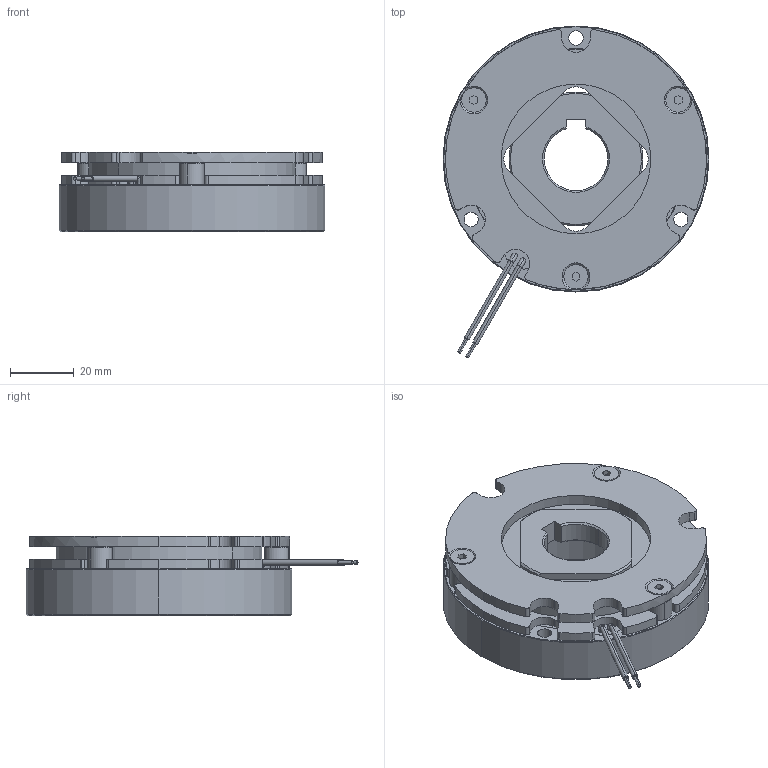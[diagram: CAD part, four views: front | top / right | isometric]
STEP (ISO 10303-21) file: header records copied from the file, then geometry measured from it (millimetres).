
FILE_DESCRIPTION (( 'STEP AP214' ), '1' );
FILE_NAME ('ÌÞÚ°·_BXR-06-10_STEP—p.STEP', '2017-06-30T08:34:42', ( 'MIKI' ), ( '' ), 'SwSTEP 2.0', 'SolidWorks 2012', '' );
FILE_SCHEMA (( 'AUTOMOTIVE_DESIGN' ));
Length unit declared in the file: millimetre
Products named in the file (1): ÌÞÚ°·_BXR-06-10_STEP—p
Bounding box: 83.5 x 104.24 x 25 mm (x, y, z)
Volume: 89322.3 mm3; surface area: 32324.7 mm2
Topology: 1 solids, 4 shells, 314 faces, 803 edges, 509 vertices
Faces by surface type: cylinder 153, plane 96, cone 59, torus 6
Entity records: 13181 total; most frequent: DIRECTION 1801, CARTESIAN_POINT 1708, ORIENTED_EDGE 1606, EDGE_CURVE 803, AXIS2_PLACEMENT_3D 708, VERTEX_POINT 509, CIRCLE 393, VECTOR 385
